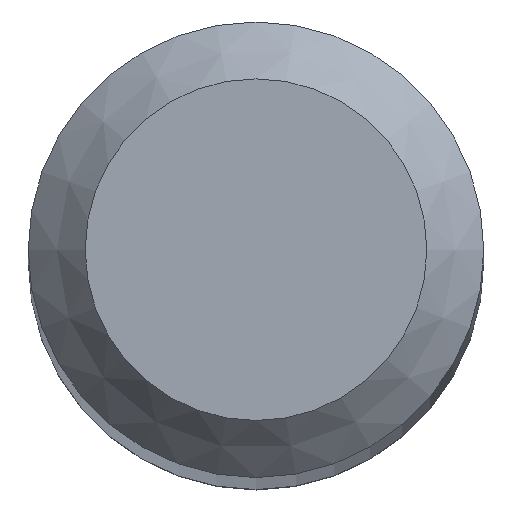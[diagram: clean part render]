
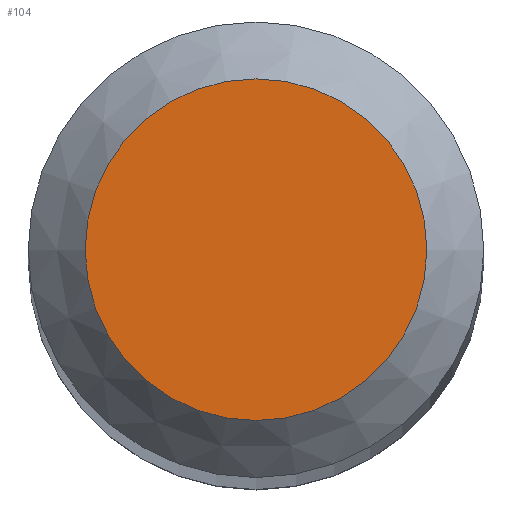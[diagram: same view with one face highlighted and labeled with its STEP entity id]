
A CAD part, top view. The second image highlights one B-rep face of the part: STEP entity #104.
In plain terms, the highlighted planar face has unit normal (0, 0, 1).
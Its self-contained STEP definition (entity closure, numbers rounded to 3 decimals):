
#88=CARTESIAN_POINT('',(1.5,0.0,65.0));
#89=DIRECTION('',(0.0,0.0,1.0));
#90=DIRECTION('',(1.0,0.0,0.0));
#91=AXIS2_PLACEMENT_3D('',#88,#89,#90);
#92=PLANE('',#91);
#93=CARTESIAN_POINT('',(-1.5,0.0,65.0));
#94=VERTEX_POINT('',#93);
#95=CARTESIAN_POINT('',(0.0,0.0,65.0));
#96=DIRECTION('',(0.0,0.0,-1.0));
#97=DIRECTION('',(-1.0,0.0,0.0));
#98=AXIS2_PLACEMENT_3D('',#95,#96,#97);
#99=CIRCLE('',#98,1.5);
#100=EDGE_CURVE('',#94,#94,#99,.T.);
#101=ORIENTED_EDGE('',*,*,#100,.F.);
#102=EDGE_LOOP('',(#101));
#103=FACE_OUTER_BOUND('',#102,.T.);
#104=ADVANCED_FACE('',(#103),#92,.T.);
